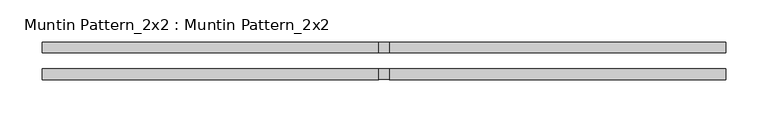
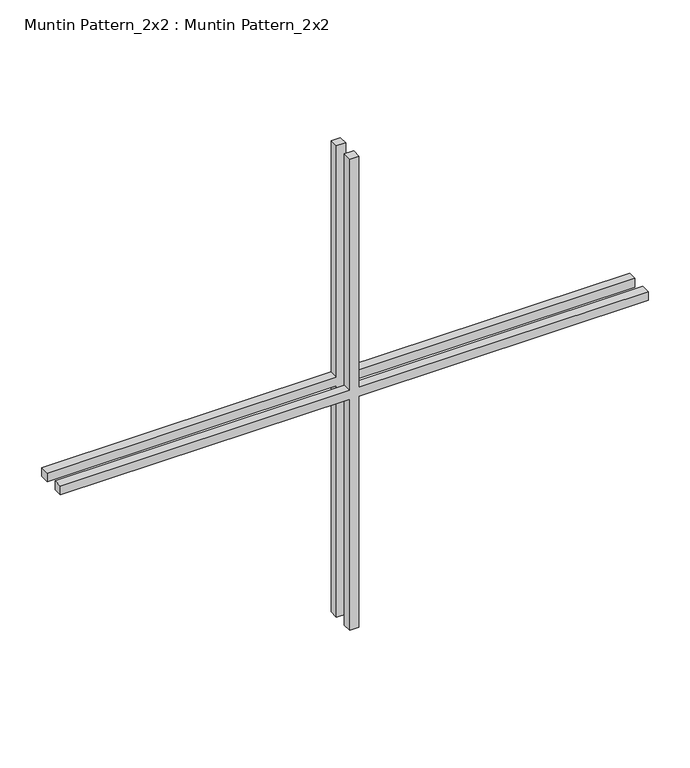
"""IFC4 building model written with IfcOpenShell, lengths in millimetres: proxy geometry, Muntin Pattern_2x2 : Muntin Pattern_2x2."""

from ifc_helpers import new_model, si_unit, frame, origin, place, context, project, spatial, polyline, outline, extrude, source, transform, mapped, element, save


def muntin_pattern_2x2_muntin_pattern_2x2_3f1d5025(model_context):
    return source(origin(), model_context, "Body", "SweptSolid", [
        extrude(outline(polyline([(350.8375, -6.35), (350.8375, -406.4), (338.1375, -406.4), (338.1375, -6.35), (0.0, -6.35), (0.0, 6.35), (338.1375, 6.35), (338.1375, 406.4), (350.8375, 406.4), (350.8375, 6.35), (688.975, 6.35), (688.975, -6.35), (350.8375, -6.35)])), frame((0.0, 9.525, 0.0), z_axis=(0.0, 1.0, 0.0), x_axis=(0.0, 0.0, 1.0)), (0.0, 0.0, 1.0), 12.7),
        extrude(outline(polyline([(350.8375, -6.35), (350.8375, -406.4), (338.1375, -406.4), (338.1375, -6.35), (0.0, -6.35), (0.0, 6.35), (338.1375, 6.35), (338.1375, 406.4), (350.8375, 406.4), (350.8375, 6.35), (688.975, 6.35), (688.975, -6.35), (350.8375, -6.35)])), frame((0.0, -22.225, 0.0), z_axis=(0.0, 1.0, 0.0), x_axis=(0.0, 0.0, 1.0)), (0.0, 0.0, 1.0), 12.7),
    ])


if __name__ == "__main__":
    model = new_model("IFC4")
    model_context = context("Model", 3, world=origin())
    ifc_project = project(units=[si_unit("LENGTHUNIT", "METRE", prefix="MILLI")], contexts=[model_context])
    site = spatial("IfcSite", under=ifc_project)
    building = spatial("IfcBuilding", under=site)
    placement = place(None, origin())
    muntin_pattern_2x2_muntin_pattern_2x2_shape = muntin_pattern_2x2_muntin_pattern_2x2_3f1d5025(model_context)
    element("IfcBuildingElementProxy", 1, Name="Muntin Pattern_2x2 : Muntin Pattern_2x2", ObjectType="Muntin Pattern_2x2 : Muntin Pattern_2x2", at=placement, inside=building, context=model_context, shape_type="MappedRepresentation", body=[
        mapped(muntin_pattern_2x2_muntin_pattern_2x2_shape, transform((0.0, 0.0, 0.0), x_axis=(1.0, 0.0, 0.0), y_axis=(0.0, 1.0, 0.0), z_axis=(0.0, 0.0, 1.0))),
    ])
    save(model, "model.ifc")
